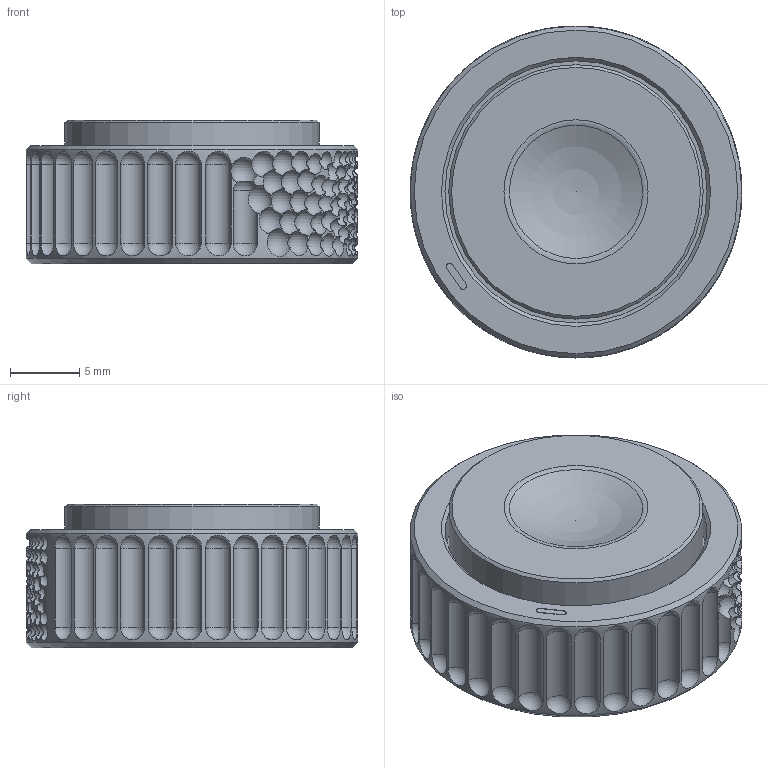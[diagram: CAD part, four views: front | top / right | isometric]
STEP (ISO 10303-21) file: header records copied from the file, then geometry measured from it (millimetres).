
FILE_DESCRIPTION(('Open CASCADE Model'),'2;1');
FILE_NAME('A17-entropihjul-V1-R01','2026-10-20T19:27:28',('Author'),( 'Open CASCADE'),'Open CASCADE STEP processor 8.0','build123d', 'Unknown');
FILE_SCHEMA(('AUTOMOTIVE_DESIGN { 1 0 10303 214 1 1 1 1 }'));
Length unit declared in the file: millimetre
Products named in the file (4): A17-entropihjul-V1-R01; A17-entropihjul-V1-R01_ring_riflet; A17-entropihjul-V1-R01_lokk; A17-entropihjul-V1-R01_indeks_lakk
Assembly tree (3 placements, depth 2):
  A17-entropihjul-V1-R01
    A17-entropihjul-V1-R01_ring_riflet
    A17-entropihjul-V1-R01_lokk
    A17-entropihjul-V1-R01_indeks_lakk
Bounding box: 24 x 24 x 10.41 mm (x, y, z)
Volume: 3889.6 mm3; surface area: 2778.1 mm2
Topology: 3 solids, 3 shells, 611 faces, 1756 edges, 1169 vertices
Faces by surface type: sphere 303, cylinder 289, plane 14, cone 4, torus 1
Full cylindrical faces by diameter (mm): 18.4 x1, 18.96 x1, 24 x1
Entity records: 788187 total; most frequent: CARTESIAN_POINT 760879, B_SPLINE_CURVE_WITH_KNOTS 4392, ORIENTED_EDGE 3510, PCURVE 3510, DEFINITIONAL_REPRESENTATION 3510, DIRECTION 2745, EDGE_CURVE 1755, SURFACE_CURVE 1745
